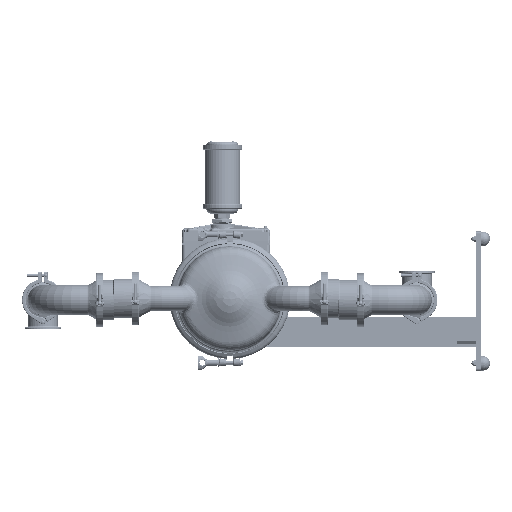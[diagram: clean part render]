
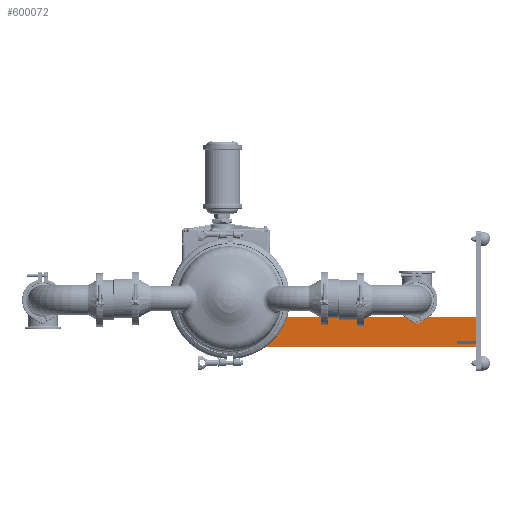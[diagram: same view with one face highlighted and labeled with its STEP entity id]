
A CAD part, left-side view. The second image highlights one B-rep face of the part: STEP entity #600072.
In plain terms, the highlighted planar face has unit normal (-1, 0, 0).
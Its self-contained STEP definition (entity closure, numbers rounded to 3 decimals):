
#455701=DIRECTION('',(0.,1.,0.));
#455702=VECTOR('',#455701,21.9);
#455703=CARTESIAN_POINT('',(-1.,-24.78,-4.898));
#455704=LINE('',#455703,#455702);
#455705=DIRECTION('',(0.,0.,1.));
#455706=VECTOR('',#455705,2.44);
#455707=CARTESIAN_POINT('',(-1.,-2.88,-4.898));
#455708=LINE('',#455707,#455706);
#455709=DIRECTION('',(0.,1.,0.));
#455710=VECTOR('',#455709,1.33);
#455711=CARTESIAN_POINT('',(-1.,-4.21,-2.458));
#455712=LINE('',#455711,#455710);
#455713=DIRECTION('',(0.,0.,-1.));
#455714=VECTOR('',#455713,0.53);
#455715=CARTESIAN_POINT('',(-1.,-4.21,-1.928));
#455716=LINE('',#455715,#455714);
#455717=DIRECTION('',(0.,-1.,0.));
#455718=VECTOR('',#455717,0.05);
#455719=CARTESIAN_POINT('',(-1.,-4.16,-1.928));
#455720=LINE('',#455719,#455718);
#455721=DIRECTION('',(0.,-1.,0.));
#455722=VECTOR('',#455721,1.28);
#455723=CARTESIAN_POINT('',(-1.,-2.88,-1.928));
#455724=LINE('',#455723,#455722);
#455725=DIRECTION('',(0.,0.,1.));
#455726=VECTOR('',#455725,2.955);
#455727=CARTESIAN_POINT('',(-1.,-2.88,-1.928));
#455728=LINE('',#455727,#455726);
#455729=DIRECTION('',(0.,-1.,0.));
#455730=VECTOR('',#455729,18.9);
#455731=CARTESIAN_POINT('',(-1.,-5.88,-1.898));
#455732=LINE('',#455731,#455730);
#455733=DIRECTION('',(0.,1.,0.));
#455734=VECTOR('',#455733,2.);
#455735=CARTESIAN_POINT('',(-1.,-24.78,-4.288));
#455736=LINE('',#455735,#455734);
#455737=DIRECTION('',(0.,0.,-1.));
#455738=VECTOR('',#455737,0.25);
#455739=CARTESIAN_POINT('',(-1.,-22.78,-4.288));
#455740=LINE('',#455739,#455738);
#455741=DIRECTION('',(0.,1.,0.));
#455742=VECTOR('',#455741,2.);
#455743=CARTESIAN_POINT('',(-1.,-24.78,-4.538));
#455744=LINE('',#455743,#455742);
#455977=DIRECTION('',(0.,0.,-1.));
#455978=VECTOR('',#455977,2.39);
#455979=CARTESIAN_POINT('',(-1.,-24.78,-1.898));
#455980=LINE('',#455979,#455978);
#456009=DIRECTION('',(0.,0.,-1.));
#456010=VECTOR('',#456009,0.36);
#456011=CARTESIAN_POINT('',(-1.,-24.78,-4.538));
#456012=LINE('',#456011,#456010);
#456553=DIRECTION('',(0.,0.,1.));
#456554=VECTOR('',#456553,2.925);
#456555=CARTESIAN_POINT('',(-1.,-5.88,-1.898));
#456556=LINE('',#456555,#456554);
#456569=DIRECTION('',(0.,-1.,0.));
#456570=VECTOR('',#456569,3.);
#456571=CARTESIAN_POINT('',(-1.,-2.88,1.027));
#456572=LINE('',#456571,#456570);
#537829=CARTESIAN_POINT('',(-1.,-24.78,-4.898));
#537831=VERTEX_POINT('',#537829);
#537834=CARTESIAN_POINT('',(-1.,-24.78,-1.898));
#537836=VERTEX_POINT('',#537834);
#537837=CARTESIAN_POINT('',(-1.,-4.21,-1.928));
#537838=CARTESIAN_POINT('',(-1.,-4.21,-2.458));
#537839=VERTEX_POINT('',#537837);
#537840=VERTEX_POINT('',#537838);
#537841=CARTESIAN_POINT('',(-1.,-2.88,-2.458));
#537842=VERTEX_POINT('',#537841);
#537862=CARTESIAN_POINT('',(-1.,-5.88,-1.898));
#537864=VERTEX_POINT('',#537862);
#537869=CARTESIAN_POINT('',(-1.,-2.88,1.027));
#537870=VERTEX_POINT('',#537869);
#537871=CARTESIAN_POINT('',(-1.,-5.88,1.027));
#537872=VERTEX_POINT('',#537871);
#537990=CARTESIAN_POINT('',(-1.,-2.88,-1.928));
#537991=CARTESIAN_POINT('',(-1.,-4.16,-1.928));
#537992=VERTEX_POINT('',#537990);
#537993=VERTEX_POINT('',#537991);
#538018=CARTESIAN_POINT('',(-1.,-24.78,-4.288));
#538020=VERTEX_POINT('',#538018);
#538022=CARTESIAN_POINT('',(-1.,-24.78,-4.538));
#538024=VERTEX_POINT('',#538022);
#538026=CARTESIAN_POINT('',(-1.,-22.78,-4.288));
#538027=VERTEX_POINT('',#538026);
#538028=CARTESIAN_POINT('',(-1.,-22.78,-4.538));
#538029=VERTEX_POINT('',#538028);
#538031=CARTESIAN_POINT('',(-1.,-2.88,-4.898));
#538033=VERTEX_POINT('',#538031);
#600037=CARTESIAN_POINT('',(-1.,-5.88,-1.898));
#600038=DIRECTION('',(-1.,0.,0.));
#600039=DIRECTION('',(0.,0.,-1.));
#600040=AXIS2_PLACEMENT_3D('',#600037,#600038,#600039);
#600041=PLANE('',#600040);
#600043=ORIENTED_EDGE('',*,*,#600042,.T.);
#600045=ORIENTED_EDGE('',*,*,#600044,.T.);
#600047=ORIENTED_EDGE('',*,*,#600046,.F.);
#600049=ORIENTED_EDGE('',*,*,#600048,.F.);
#600050=ORIENTED_EDGE('',*,*,#600028,.F.);
#600051=ORIENTED_EDGE('',*,*,#564271,.F.);
#600053=ORIENTED_EDGE('',*,*,#600052,.T.);
#600055=ORIENTED_EDGE('',*,*,#600054,.T.);
#600057=ORIENTED_EDGE('',*,*,#600056,.F.);
#600059=ORIENTED_EDGE('',*,*,#600058,.T.);
#600061=ORIENTED_EDGE('',*,*,#600060,.T.);
#600063=ORIENTED_EDGE('',*,*,#600062,.T.);
#600065=ORIENTED_EDGE('',*,*,#600064,.T.);
#600067=ORIENTED_EDGE('',*,*,#600066,.F.);
#600069=ORIENTED_EDGE('',*,*,#600068,.T.);
#600070=EDGE_LOOP('',(#600043,#600045,#600047,#600049,#600050,#600051,#600053,
#600055,#600057,#600059,#600061,#600063,#600065,#600067,#600069));
#600071=FACE_OUTER_BOUND('',#600070,.F.);
#600072=ADVANCED_FACE('',(#600071),#600041,.T.);
#564271=EDGE_CURVE('',#537992,#537993,#455724,.T.);
#600028=EDGE_CURVE('',#537993,#537839,#455720,.T.);
#600042=EDGE_CURVE('',#537831,#538033,#455704,.T.);
#600044=EDGE_CURVE('',#538033,#537842,#455708,.T.);
#600046=EDGE_CURVE('',#537840,#537842,#455712,.T.);
#600048=EDGE_CURVE('',#537839,#537840,#455716,.T.);
#600052=EDGE_CURVE('',#537992,#537870,#455728,.T.);
#600054=EDGE_CURVE('',#537870,#537872,#456572,.T.);
#600056=EDGE_CURVE('',#537864,#537872,#456556,.T.);
#600058=EDGE_CURVE('',#537864,#537836,#455732,.T.);
#600060=EDGE_CURVE('',#537836,#538020,#455980,.T.);
#600062=EDGE_CURVE('',#538020,#538027,#455736,.T.);
#600064=EDGE_CURVE('',#538027,#538029,#455740,.T.);
#600066=EDGE_CURVE('',#538024,#538029,#455744,.T.);
#600068=EDGE_CURVE('',#538024,#537831,#456012,.T.);
